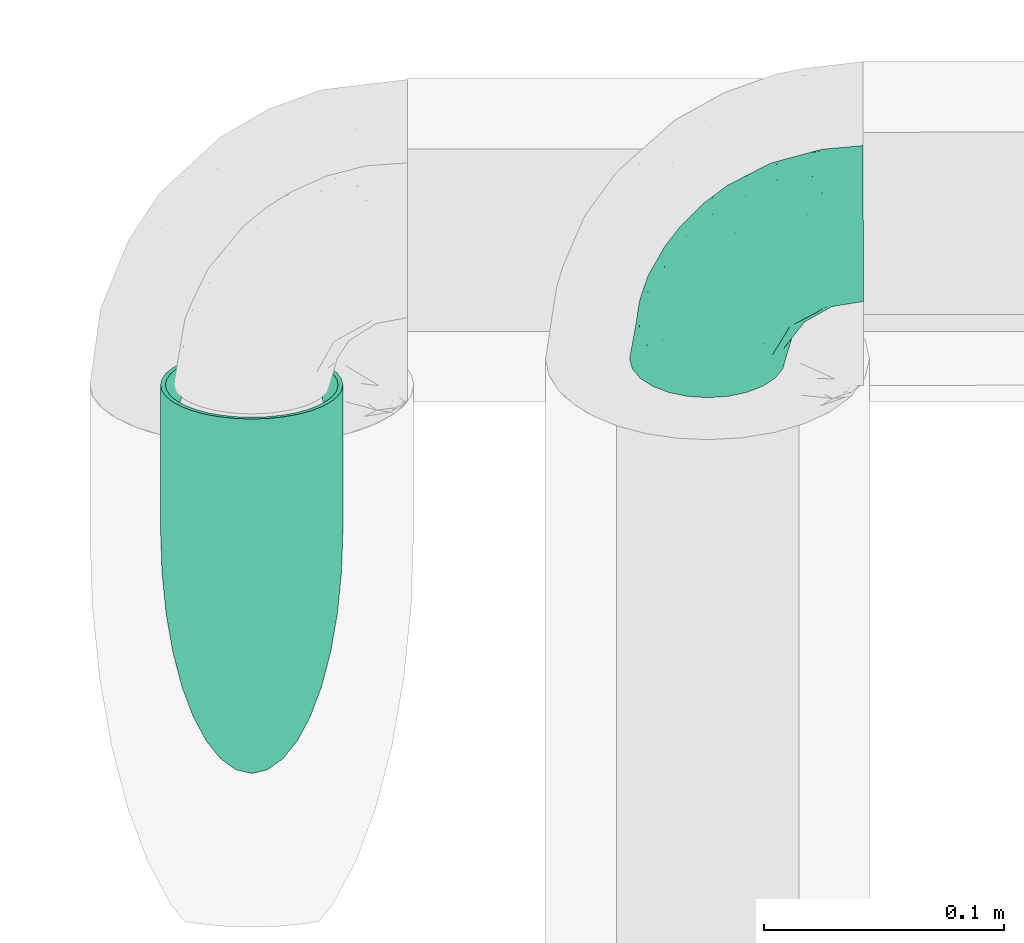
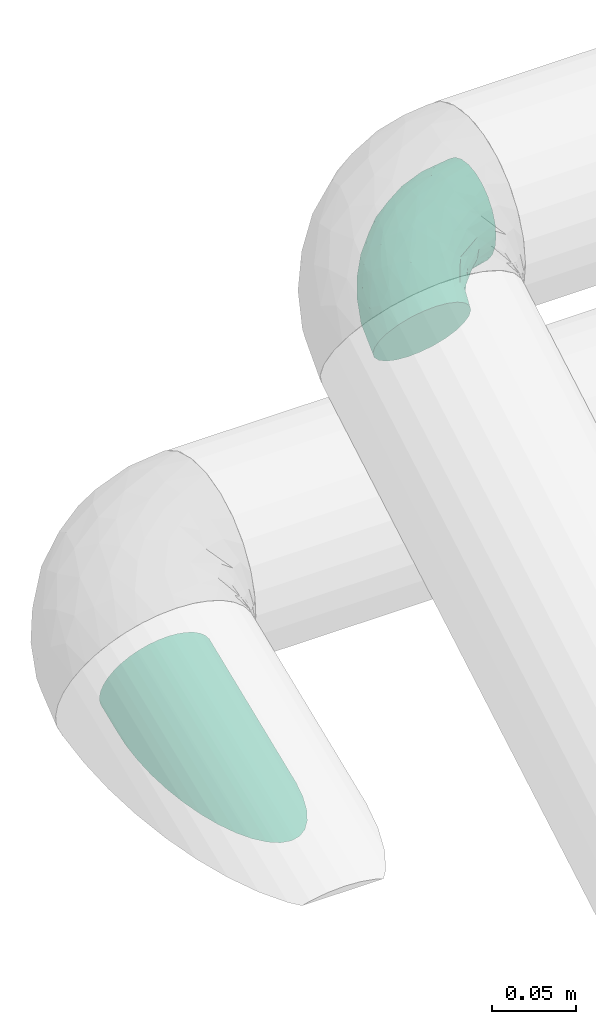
# One storey, part 118 of 156: 1 flow fitting, 1 flow segment.
"""IFC2X3 building model written with IfcOpenShell, lengths in millimetres."""

from ifc_helpers import new_model, entity, si_unit, converted_unit, derived_unit, direction, frame, origin_with_axes, place, context, subcontext, project, spatial, open_shell, faceted_brep, surface_model, source, transform, mapped, type_object, element, save


model = new_model("IFC2X3")

# Units and contexts
model_context = context("Model", 3, precision=0.01, world=frame((0.0, 4.29681676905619e-09, 0.0)), true_north=direction((4.01073788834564e-13, 1.0)))
plan_context = context("Plan", 3, precision=0.01, world=frame((0.0, 4.29681676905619e-09, 0.0)), true_north=direction((4.01073788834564e-13, 1.0)))
body_context = subcontext(model_context, "Body", "Model", "MODEL_VIEW")
ifc_project = project(units=[converted_unit("PLANEANGLEUNIT", "DEGREE", entity("IfcPositiveLengthMeasure", 0.0174532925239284), si_unit("PLANEANGLEUNIT", "RADIAN"), dimensions=[0, 0, 0, 0, 0, 0, 0]), si_unit("AREAUNIT", "SQUARE_METRE"), si_unit("LENGTHUNIT", "METRE", prefix="MILLI"), si_unit("MASSUNIT", "GRAM", prefix="KILO"), si_unit("POWERUNIT", "WATT"), si_unit("PRESSUREUNIT", "PASCAL", prefix="KILO"), si_unit("FORCEUNIT", "NEWTON", prefix="KILO"), si_unit("ELECTRICVOLTAGEUNIT", "VOLT"), si_unit("ELECTRICCURRENTUNIT", "AMPERE"), si_unit("THERMODYNAMICTEMPERATUREUNIT", "DEGREE_CELSIUS"), si_unit("TIMEUNIT", "SECOND"), si_unit("VOLUMEUNIT", "CUBIC_METRE"), derived_unit("LINEARVELOCITYUNIT", [(si_unit("LENGTHUNIT", "METRE"), 1), (si_unit("TIMEUNIT", "SECOND"), -1)]), derived_unit("VOLUMETRICFLOWRATEUNIT", [(si_unit("VOLUMEUNIT", "CUBIC_METRE"), 1), (si_unit("TIMEUNIT", "SECOND"), -1)]), derived_unit("THERMALTRANSMITTANCEUNIT", [(si_unit("POWERUNIT", "WATT"), 1), (si_unit("THERMODYNAMICTEMPERATUREUNIT", "KELVIN"), -1), (si_unit("AREAUNIT", "SQUARE_METRE"), -1)]), derived_unit("SOUNDPRESSUREUNIT", [(si_unit("PRESSUREUNIT", "PASCAL"), 1)])], contexts=[model_context, plan_context])

# Site, building, storey
site_placement = place(None, frame((0.0, -4.29681676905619e-09, 0.0), z_axis=(0.0, 0.0, 1.0), x_axis=(1.0, 0.0, 0.0)))
site = spatial("IfcSite", under=ifc_project, at=site_placement, CompositionType="ELEMENT")
building_placement = place(site_placement, frame((0.0, 4.29681676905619e-09, 0.0), z_axis=(0.0, 0.0, 1.0), x_axis=(1.0, 0.0, 0.0)))
building = spatial("IfcBuilding", under=site, at=building_placement, Name="mc-building", CompositionType="ELEMENT")
storey_placement = place(building_placement, frame((0.0, 0.0, 205200.0), z_axis=(0.0, 0.0, 1.0), x_axis=(1.0, 0.0, 0.0)))
storey = spatial("IfcBuildingStorey", under=building, at=storey_placement, Name="Nivå D + 1,2 m", CompositionType="ELEMENT", Elevation=205200.0)

# Flow fitting
pipe_fitting_type = type_object("IfcPipeFittingType", Name="magi_pipe_elbow_short_001", PredefinedType="BEND")
shared_shape = source(origin_with_axes(), body_context, "Body", "SurfaceModel", [
    surface_model("IfcShellBasedSurfaceModel", [(-64.87655, 16.25, -28.14582), (-64.87655, 8.41162, -31.39259), (-64.87655, 0.0, -32.5), (-64.87655, -22.98097, -22.98097), (-64.87655, 31.39259, -8.41162), (-64.87655, 28.14582, -16.25), (-64.87655, 22.98097, -22.98097), (-64.87655, -32.5, 0.0), (-64.87655, -31.39259, 8.41162), (-64.87655, -16.25, -28.14582), (-64.87655, -8.41162, -31.39259), (-64.87655, -31.39259, -8.41162), (-64.87655, -28.14582, -16.25), (-64.87655, -22.98097, 22.98097), (-64.87655, 31.39259, 8.41162), (-64.87655, 28.14582, 16.25), (-64.87655, 16.25, 28.14582), (-64.87655, 22.98097, 22.98097), (-64.87655, 0.0, 32.5), (-64.87655, 8.41162, 31.39259), (-64.87655, -28.14582, 16.25), (-64.87655, -8.41162, 31.39259), (-64.87655, -16.25, 28.14582), (-64.87655, 32.5, 0.0), (0.12333, 64.87643, -32.5), (-8.28827, 64.89242, -31.39259), (-16.12664, 64.90733, -28.14582), (-22.8576, 64.92012, -22.98097), (-28.02244, 64.92994, -16.25), (-31.2692, 64.93611, -8.41162), (31.51587, 64.81675, -8.41162), (8.53494, 64.86044, -31.39259), (23.10426, 64.83274, -22.98097), (16.3733, 64.84554, -28.14582), (28.26911, 64.82292, -16.25), (31.51587, 64.81675, 8.41162), (32.62327, 64.81465, 0.0), (-31.2692, 64.93611, 8.41162), (-16.12664, 64.90733, 28.14582), (-28.02244, 64.92994, 16.25), (23.10426, 64.83274, 22.98097), (-22.8576, 64.92012, 22.98097), (0.12333, 64.87643, 32.5), (-8.28827, 64.89242, 31.39259), (28.26911, 64.82292, 16.25), (16.3733, 64.84554, 28.14582), (8.53494, 64.86044, 31.39259), (-32.37661, 64.93821, 0.0), (-43.78638, -28.50327, 10.21702), (-47.54494, -25.24623, 18.24519), (-34.78265, -27.73946, 0.0), (-48.89189, -29.97139, 0.0), (-8.252, -11.27241, 12.5149), (-2.22182, -8.75643, 6.82094), (1.95014, -1.95385, 13.42601), (-49.54732, -4.3057, 31.94496), (-45.40277, 4.98135, 32.44435), (11.17225, 7.86308, 12.20499), (19.88469, 26.26298, 16.16719), (7.66354, 11.6801, 20.73257), (-32.27113, -0.30113, 31.50287), (-47.41793, -12.26025, 29.2297), (-25.1179, -7.66846, 27.16987), (-41.55841, -18.5628, 24.14452), (-29.03155, -24.9257, 6.67812), (-21.20507, -20.83109, 0.0), (-11.69465, -7.64132, 20.73257), (-5.7483, 5.75924, 26.5815), (-31.67073, 51.8108, 14.12355), (-27.05283, 50.53453, 21.34896), (-12.02558, 55.97712, 30.44087), (-4.36274, 48.51047, 32.41994), (-49.98018, 12.74758, 30.70005), (-8.41945, 21.6855, 31.91115), (-16.06445, 5.95653, 30.35637), (-3.23652, 17.50813, 29.86736), (-56.12676, 19.68077, 26.47942), (-11.23295, 31.90454, 32.44032), (-23.998, 24.04366, 31.70736), (-19.2949, 14.17345, 32.3349), (-51.30994, 34.596, 7.1377), (-51.7668, 31.76387, 14.12137), (-40.25386, 40.33046, 12.14588), (-50.69243, 27.09128, 21.32593), (18.64177, 41.52305, 24.14452), (-33.59503, 43.05314, 18.40332), (12.35037, 47.39454, 29.2297), (25.33657, 47.49686, 18.24519), (28.58646, 43.73211, 10.21702), (-7.62748, -13.92271, 0.0), (-15.70975, -17.90999, 8.41339), (4.39988, 49.53904, 31.94496), (-35.61928, 13.90676, 31.91801), (-31.81109, 7.95836, 32.48663), (20.87136, 21.16543, 0.0), (24.98085, 28.98411, 6.67812), (17.93982, 15.67568, 8.41339), (30.06429, 48.83483, 0.0), (-34.4771, 22.02359, 30.05845), (-26.30073, -19.83472, 16.16719), (-23.47981, 41.93903, 27.31339), (-19.75225, 54.41792, 26.61525), (-34.10882, 52.37617, 6.97272), (-40.64738, 42.58639, 5.71488), (15.02949, 26.04051, 22.02602), (7.7162, 25.10327, 27.16987), (-36.75134, 48.71434, 0.0), (-30.01745, 34.26802, 26.7011), (-44.66582, 22.05232, 27.36407), (-0.41267, 0.41346, 19.15876), (-18.47549, 33.59752, 31.23714), (-25.82127, 31.41584, 29.56775), (-13.96683, 43.97117, 30.94964), (-34.18414, 36.24999, 23.01645), (-41.63521, 34.91538, 18.11446), (0.36248, 32.2705, 31.50287), (-25.94206, -14.23596, 22.67292), (8.91945, 2.28416, 6.48766), (27.80553, 34.72985, 0.0), (13.93719, 7.601, 0.0), (-48.64439, 36.84388, 0.0), (3.15485, -3.16085, 0.0), (-50.48302, 27.14885, -21.34896), (-26.06903, -14.97996, -22.02602), (-25.1179, -7.66846, -27.16987), (-11.69465, -7.64132, -20.73257), (-48.50209, 4.45495, -32.41994), (0.36248, 32.2705, -31.50287), (12.35037, 47.39454, -29.2297), (7.7162, 25.10327, -27.16987), (-55.95415, 12.13197, -30.44087), (-19.57403, 56.16407, -26.47943), (-26.99487, 50.74384, -21.32593), (-52.31123, 34.20833, -6.97272), (-0.41267, 0.41346, -19.15876), (1.95014, -1.95385, -13.42601), (-8.252, -11.27241, -12.5149), (-40.25386, 40.33046, -12.14587), (-51.7505, 31.76917, -14.12355), (24.98085, 28.98411, -6.67812), (19.88469, 26.26298, -16.16719), (28.58646, 43.73211, -10.21702), (-31.36669, 25.88095, -29.56775), (-33.56234, 18.53933, -31.23714), (-41.89432, 23.5595, -27.31339), (7.66354, 11.6801, -20.73257), (-5.7483, 5.75924, -26.5815), (-21.66945, 8.46066, -31.91115), (-5.92598, 16.07574, -30.35637), (-17.50194, 3.26979, -29.86736), (-54.38027, 19.85566, -26.61525), (-43.78638, -28.50327, -10.21702), (-36.18494, 34.25299, -23.01646), (-47.54494, -25.24623, -18.24519), (-29.03155, -24.9257, -6.67812), (-26.30073, -19.83472, -16.16719), (-15.70975, -17.90999, -8.41339), (-42.9892, 33.67681, -18.40332), (-47.41793, -12.26025, -29.2297), (-49.54732, -4.3057, -31.94496), (-43.94454, 14.05039, -30.94965), (-31.88313, 11.29358, -32.44032), (-12.65254, 50.00432, -30.70005), (-4.89503, 45.41215, -32.44435), (-42.50903, 40.72826, -5.71488), (-21.958, 34.5189, -30.05846), (-13.83902, 35.64566, -31.91801), (-34.4984, 51.37562, -7.1377), (-31.6654, 51.82709, -14.12137), (4.39988, 49.53904, -31.94496), (-2.22182, -8.75643, -6.82094), (25.33657, 47.49686, -18.24519), (-41.55841, -18.5628, -24.14452), (-23.998, 24.04366, -31.70736), (-14.13674, 19.32181, -32.3349), (18.64177, 41.52305, -24.14452), (17.93982, 15.67568, -8.41339), (-34.2109, 30.08255, -26.7011), (-21.96737, 44.70766, -27.36407), (-7.89788, 31.82616, -32.48663), (-34.83616, 41.70151, -18.11446), (-32.27113, -0.30113, -31.50287), (14.28525, 25.91495, -22.67292), (11.47605, 8.85774, -13.03444), (8.95083, 2.55671, -7.19496)], [open_shell([[[0, 1, 2]], [[0, 2, 3]], [[4, 5, 6]], [[6, 0, 7]], [[6, 7, 8]], [[9, 3, 10]], [[3, 2, 10]], [[11, 7, 12]], [[3, 12, 7]], [[3, 7, 0]], [[8, 4, 6]], [[13, 14, 4]], [[15, 14, 16]], [[13, 16, 14]], [[17, 15, 16]], [[16, 18, 19]], [[20, 13, 8]], [[8, 13, 4]], [[21, 18, 22]], [[16, 13, 22]], [[16, 22, 18]], [[23, 4, 14]], [[24, 25, 26]], [[24, 26, 27]], [[27, 28, 29]], [[27, 29, 24]], [[24, 29, 30]], [[31, 32, 33]], [[31, 24, 32]], [[32, 30, 34]], [[24, 30, 32]], [[30, 35, 36]], [[30, 29, 35]], [[35, 29, 37]], [[38, 37, 39]], [[40, 37, 38]], [[38, 39, 41]], [[42, 38, 43]], [[35, 40, 44]], [[35, 37, 40]], [[45, 42, 46]], [[42, 45, 40]], [[38, 42, 40]], [[37, 29, 47]], [[48, 49, 20]], [[50, 48, 51]], [[52, 53, 54]], [[8, 48, 20]], [[8, 51, 48]], [[18, 55, 56]], [[20, 49, 13]], [[57, 58, 59]], [[60, 61, 62]], [[63, 22, 13]], [[63, 61, 22]], [[64, 50, 65]], [[62, 66, 67]], [[39, 68, 69]], [[43, 70, 71]], [[19, 72, 16]], [[73, 74, 75]], [[16, 76, 17]], [[21, 55, 18]], [[77, 78, 79]], [[80, 81, 82]], [[15, 83, 81]], [[84, 40, 45]], [[23, 14, 80]], [[14, 15, 81]], [[68, 85, 69]], [[83, 15, 17]], [[18, 56, 19]], [[45, 86, 84]], [[17, 76, 83]], [[87, 58, 88]], [[39, 37, 68]], [[89, 90, 65]], [[42, 91, 46]], [[65, 90, 64]], [[42, 43, 71]], [[92, 93, 79]], [[88, 35, 44]], [[44, 40, 87]], [[87, 88, 44]], [[94, 95, 96]], [[88, 97, 35]], [[98, 72, 92]], [[49, 99, 63]], [[69, 100, 101]], [[82, 102, 103]], [[104, 105, 59]], [[106, 102, 47]], [[98, 107, 108]], [[102, 82, 68]], [[86, 45, 46]], [[69, 41, 39]], [[109, 54, 57]], [[110, 100, 111]], [[22, 61, 21]], [[101, 38, 41]], [[70, 43, 38]], [[112, 77, 71]], [[84, 86, 105]], [[96, 95, 58]], [[100, 69, 113]], [[72, 19, 56]], [[108, 113, 83]], [[81, 114, 82]], [[112, 110, 77]], [[91, 71, 115]], [[62, 61, 63]], [[55, 61, 60]], [[116, 99, 66]], [[74, 62, 67]], [[91, 86, 46]], [[105, 86, 115]], [[75, 105, 115]], [[109, 67, 66]], [[59, 105, 67]], [[48, 64, 99]], [[99, 49, 48]], [[63, 13, 49]], [[40, 84, 87]], [[58, 87, 84]], [[92, 72, 56]], [[76, 72, 108]], [[102, 68, 37]], [[82, 114, 85]], [[98, 111, 107]], [[112, 70, 101]], [[114, 83, 113]], [[82, 103, 80]], [[92, 79, 78]], [[115, 71, 77]], [[74, 79, 60]], [[77, 79, 73]], [[57, 54, 117]], [[104, 59, 58]], [[116, 66, 62]], [[52, 99, 90]], [[71, 91, 42]], [[86, 91, 115]], [[61, 55, 21]], [[56, 55, 60]], [[8, 7, 51]], [[97, 88, 118]], [[97, 36, 35]], [[53, 90, 89]], [[90, 53, 52]], [[94, 96, 119]], [[88, 95, 118]], [[117, 54, 53]], [[92, 56, 93]], [[98, 92, 78]], [[111, 98, 78]], [[72, 98, 108]], [[110, 111, 78]], [[107, 111, 100]], [[47, 102, 37]], [[102, 106, 103]], [[106, 120, 103]], [[103, 120, 80]], [[23, 80, 120]], [[14, 81, 80]], [[56, 60, 93]], [[60, 79, 93]], [[117, 121, 119]], [[121, 117, 53]], [[53, 89, 121]], [[119, 96, 117]], [[117, 96, 57]], [[77, 110, 78]], [[100, 110, 112]], [[83, 114, 81]], [[85, 114, 113]], [[69, 85, 113]], [[82, 85, 68]], [[109, 52, 54]], [[99, 52, 66]], [[69, 101, 41]], [[112, 101, 100]], [[100, 113, 107]], [[108, 107, 113]], [[62, 74, 60]], [[75, 74, 67]], [[105, 75, 67]], [[73, 75, 115]], [[77, 73, 115]], [[74, 73, 79]], [[99, 64, 90]], [[50, 64, 48]], [[118, 95, 94]], [[58, 95, 88]], [[58, 57, 96]], [[109, 57, 59]], [[72, 76, 16]], [[83, 76, 108]], [[101, 70, 38]], [[71, 70, 112]], [[58, 84, 104]], [[105, 104, 84]], [[67, 109, 59]], [[52, 109, 66]], [[62, 63, 116]], [[99, 116, 63]], [[5, 122, 6]], [[123, 124, 125]], [[2, 1, 126]], [[127, 128, 129]], [[1, 0, 130]], [[27, 131, 132]], [[120, 133, 23]], [[134, 135, 136]], [[133, 137, 138]], [[139, 140, 141]], [[142, 143, 144]], [[145, 146, 129]], [[147, 148, 149]], [[150, 0, 6]], [[12, 151, 11]], [[33, 128, 31]], [[151, 51, 11]], [[144, 122, 152]], [[151, 12, 153]], [[5, 4, 138]], [[154, 155, 156]], [[138, 157, 122]], [[158, 9, 10]], [[30, 36, 97]], [[159, 10, 2]], [[155, 151, 153]], [[160, 161, 126]], [[162, 25, 163]], [[164, 137, 133]], [[165, 162, 166]], [[47, 29, 167]], [[122, 144, 150]], [[168, 29, 28]], [[24, 169, 163]], [[89, 156, 170]], [[27, 26, 131]], [[162, 26, 25]], [[141, 171, 34]], [[24, 31, 169]], [[138, 122, 5]], [[172, 3, 9]], [[27, 132, 28]], [[161, 173, 174]], [[33, 175, 128]], [[158, 172, 9]], [[167, 168, 137]], [[24, 163, 25]], [[118, 94, 139]], [[34, 171, 32]], [[175, 33, 32]], [[141, 30, 97]], [[172, 158, 124]], [[141, 97, 118]], [[65, 154, 156]], [[119, 176, 94]], [[34, 30, 141]], [[165, 177, 178]], [[1, 130, 126]], [[171, 140, 175]], [[132, 168, 28]], [[166, 179, 174]], [[12, 3, 153]], [[178, 152, 132]], [[168, 180, 137]], [[160, 143, 161]], [[159, 126, 181]], [[159, 158, 10]], [[124, 158, 181]], [[149, 124, 181]], [[134, 146, 145]], [[129, 128, 175]], [[169, 128, 127]], [[182, 140, 145]], [[148, 129, 146]], [[136, 155, 125]], [[125, 124, 146]], [[3, 172, 153]], [[155, 153, 172]], [[140, 171, 141]], [[175, 32, 171]], [[166, 162, 163]], [[131, 162, 178]], [[133, 138, 4]], [[137, 180, 157]], [[165, 142, 177]], [[160, 130, 150]], [[180, 132, 152]], [[137, 164, 167]], [[166, 174, 173]], [[181, 126, 161]], [[148, 174, 127]], [[161, 174, 147]], [[136, 135, 170]], [[123, 125, 155]], [[182, 145, 129]], [[183, 140, 176]], [[126, 159, 2]], [[158, 159, 181]], [[128, 169, 31]], [[163, 169, 127]], [[51, 151, 50]], [[51, 7, 11]], [[65, 156, 89]], [[151, 154, 50]], [[156, 136, 170]], [[94, 176, 139]], [[135, 184, 170]], [[176, 184, 183]], [[166, 163, 179]], [[165, 166, 173]], [[142, 165, 173]], [[162, 165, 178]], [[143, 142, 173]], [[177, 142, 144]], [[23, 133, 4]], [[133, 120, 164]], [[120, 106, 164]], [[164, 106, 167]], [[47, 167, 106]], [[29, 168, 167]], [[163, 127, 179]], [[127, 174, 179]], [[135, 183, 184]], [[184, 121, 170]], [[176, 119, 184]], [[134, 183, 135]], [[121, 184, 119]], [[121, 89, 170]], [[140, 183, 145]], [[161, 143, 173]], [[144, 143, 160]], [[132, 180, 168]], [[157, 180, 152]], [[122, 157, 152]], [[137, 157, 138]], [[155, 136, 156]], [[134, 136, 125]], [[122, 150, 6]], [[160, 150, 144]], [[144, 152, 177]], [[178, 177, 152]], [[129, 148, 127]], [[149, 148, 146]], [[124, 149, 146]], [[147, 149, 181]], [[161, 147, 181]], [[148, 147, 174]], [[50, 154, 65]], [[155, 154, 151]], [[140, 139, 176]], [[118, 139, 141]], [[162, 131, 26]], [[132, 131, 178]], [[150, 130, 0]], [[126, 130, 160]], [[155, 172, 123]], [[124, 123, 172]], [[146, 134, 125]], [[183, 134, 145]], [[129, 175, 182]], [[140, 182, 175]]])]),
])
flow_fitting_placement = place(storey_placement, frame((326407.42979, 460519.07185, 4232.60000000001), z_axis=(0.00109799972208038, -0.499999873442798, 0.866024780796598), x_axis=(-0.999997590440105, -0.00219524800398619, 4.31110314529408e-07)))
element("IfcFlowFitting", 1, at=flow_fitting_placement, inside=storey, type_object=pipe_fitting_type, Name="magi_pipe_elbow_short_001", context=body_context, shape_type="MappedRepresentation", body=[
    mapped(shared_shape, transform((0.0, 0.0, 0.0), scale=1.0)),
])

# Flow segment
pipe_segment_type = type_object("IfcPipeSegmentType", Name="Stålrør normaltykke", PredefinedType="RIGIDSEGMENT")
flow_segment_placement = place(storey_placement, frame((326217.42979, 460251.23866, 3943.34448), z_axis=(0.0, -0.37460689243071, 0.927183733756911), x_axis=(0.0, 0.927183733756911, 0.37460689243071)))
element("IfcFlowSegment", 2, at=flow_segment_placement, inside=storey, type_object=pipe_segment_type, Name="Stålrør normaltykke", context=body_context, shape_type="Brep", body=[
    faceted_brep([(166.712510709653, 35.4530791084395, -6.25133439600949), (151.239929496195, 36.0, 0.0), (216.5, 36.0, 0.0), (216.5, 35.4530791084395, -6.25133439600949), (181.714965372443, 33.8289343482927, -12.3127251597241), (216.5, 33.8289343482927, -12.3127251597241), (195.791451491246, 31.1769145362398, -18.0), (216.5, 31.1769145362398, -18.0), (208.514262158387, 27.5775999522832, -23.1403539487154), (216.5, 27.5775999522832, -23.1403539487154), (216.5, 24.3511494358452, -26.3668044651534), (208.514262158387, -27.5775999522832, -23.1403539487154), (216.5, -24.3511494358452, -26.3668044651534), (216.5, -27.5775999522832, -23.1403539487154), (195.791451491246, -31.1769145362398, -18.0), (216.5, -31.1769145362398, -18.0), (181.714965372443, -33.8289343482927, -12.3127251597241), (216.5, -33.8289343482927, -12.3127251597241), (166.712510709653, -35.4530791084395, -6.25133439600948), (216.5, -35.4530791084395, -6.25133439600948), (151.239929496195, -36.0, 4.40872847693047e-15), (216.5, -36.0, 4.40872847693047e-15), (135.767348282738, -35.4530791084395, 6.25133439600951), (216.5, -35.4530791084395, 6.25133439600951), (120.764893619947, -33.8289343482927, 12.3127251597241), (216.5, -33.8289343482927, 12.3127251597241), (106.688407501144, -31.1769145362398, 18.0), (216.5, -31.1769145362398, 18.0), (93.9655968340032, -27.5775999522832, 23.1403539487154), (216.5, -27.5775999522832, 23.1403539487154), (82.983037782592, -23.1403539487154, 27.5775999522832), (216.5, -23.1403539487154, 27.5775999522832), (74.0744298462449, -18.0, 31.1769145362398), (216.5, -18.0, 31.1769145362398), (67.5104565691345, -12.3127251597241, 33.8289343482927), (216.5, -12.3127251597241, 33.8289343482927), (63.4905609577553, -6.25133439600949, 35.4530791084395), (216.5, -6.25133439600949, 35.4530791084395), (62.1368855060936, 2.20436423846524e-15, 36.0), (216.5, 2.20436423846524e-15, 36.0), (63.4905609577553, 6.2513343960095, 35.4530791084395), (216.5, 6.2513343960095, 35.4530791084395), (67.5104565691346, 12.3127251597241, 33.8289343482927), (216.5, 12.3127251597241, 33.8289343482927), (74.0744298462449, 18.0, 31.1769145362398), (216.5, 18.0, 31.1769145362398), (82.983037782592, 23.1403539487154, 27.5775999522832), (216.5, 23.1403539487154, 27.5775999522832), (93.9655968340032, 27.5775999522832, 23.1403539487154), (216.5, 27.5775999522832, 23.1403539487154), (106.688407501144, 31.1769145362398, 18.0), (216.5, 31.1769145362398, 18.0), (120.764893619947, 33.8289343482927, 12.3127251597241), (216.5, 33.8289343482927, 12.3127251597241), (135.767348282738, 35.4530791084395, 6.25133439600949), (216.5, 35.4530791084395, 6.25133439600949), (151.239929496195, 38.0, 0.0), (167.572098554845, 37.4226946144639, -6.59863075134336), (216.5, 37.4226946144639, -6.59863075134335), (216.5, 38.0, 0.0), (134.907760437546, 37.4226946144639, 6.59863075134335), (216.5, 37.4226946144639, 6.59863075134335), (119.071836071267, 35.7083195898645, 12.9967654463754), (216.5, 35.7083195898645, 12.9967654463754), (104.213322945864, 32.9089653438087, 19.0), (216.5, 32.9089653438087, 19.0), (90.7836894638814, 29.1096888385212, 24.4259291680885), (216.5, 29.1096888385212, 24.4259291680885), (79.1909882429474, 24.4259291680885, 29.1096888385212), (216.5, 24.4259291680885, 29.1096888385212), (69.7874576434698, 19.0, 32.9089653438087), (216.5, 19.0, 32.9089653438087), (62.8588191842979, 12.9967654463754, 35.7083195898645), (216.5, 12.9967654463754, 35.7083195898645), (58.6155960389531, 6.59863075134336, 37.4226946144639), (216.5, 6.59863075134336, 37.4226946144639), (57.1867163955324, 2.32682891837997e-15, 38.0), (216.5, 2.32682891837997e-15, 38.0), (58.6155960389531, -6.59863075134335, 37.4226946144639), (216.5, -6.59863075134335, 37.4226946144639), (62.8588191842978, -12.9967654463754, 35.7083195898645), (216.5, -12.9967654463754, 35.7083195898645), (69.7874576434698, -19.0, 32.9089653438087), (216.5, -19.0, 32.9089653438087), (79.1909882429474, -24.4259291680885, 29.1096888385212), (216.5, -24.4259291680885, 29.1096888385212), (90.7836894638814, -29.1096888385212, 24.4259291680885), (216.5, -29.1096888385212, 24.4259291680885), (104.213322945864, -32.9089653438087, 19.0), (216.5, -32.9089653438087, 19.0), (119.071836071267, -35.7083195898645, 12.9967654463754), (216.5, -35.7083195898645, 12.9967654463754), (134.907760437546, -37.4226946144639, 6.59863075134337), (216.5, -37.4226946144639, 6.59863075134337), (151.239929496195, -38.0, 4.65365783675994e-15), (216.5, -38.0, 4.65365783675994e-15), (167.572098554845, -37.4226946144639, -6.59863075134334), (216.5, -37.4226946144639, -6.59863075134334), (183.408022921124, -35.7083195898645, -12.9967654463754), (216.5, -35.7083195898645, -12.9967654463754), (198.266536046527, -32.9089653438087, -19.0), (216.5, -32.9089653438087, -19.0), (211.696169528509, -29.1096888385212, -24.4259291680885), (216.5, -29.1096888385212, -24.4259291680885), (216.5, -27.1688135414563, -26.3668044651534), (211.696169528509, 29.1096888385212, -24.4259291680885), (216.5, 27.1688135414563, -26.3668044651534), (216.5, 29.1096888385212, -24.4259291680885), (198.266536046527, 32.9089653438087, -19.0), (216.5, 32.9089653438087, -19.0), (183.408022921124, 35.7083195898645, -12.9967654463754), (216.5, 35.7083195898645, -12.9967654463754)], [[[0, 1, 2, 3]], [[4, 0, 3, 5]], [[6, 4, 5, 7]], [[8, 6, 7, 9]], [[10, 8, 9]], [[11, 12, 13]], [[14, 11, 13, 15]], [[16, 14, 15, 17]], [[18, 16, 17, 19]], [[20, 18, 19, 21]], [[22, 20, 21, 23]], [[24, 22, 23, 25]], [[26, 24, 25, 27]], [[28, 26, 27, 29]], [[30, 28, 29, 31]], [[32, 30, 31, 33]], [[34, 32, 33, 35]], [[36, 34, 35, 37]], [[38, 36, 37, 39]], [[40, 38, 39, 41]], [[42, 40, 41, 43]], [[44, 42, 43, 45]], [[46, 44, 45, 47]], [[48, 46, 47, 49]], [[50, 48, 49, 51]], [[52, 50, 51, 53]], [[54, 52, 53, 55]], [[1, 54, 55, 2]], [[56, 57, 58, 59]], [[60, 56, 59, 61]], [[62, 60, 61, 63]], [[64, 62, 63, 65]], [[66, 64, 65, 67]], [[68, 66, 67, 69]], [[70, 68, 69, 71]], [[72, 70, 71, 73]], [[74, 72, 73, 75]], [[76, 74, 75, 77]], [[78, 76, 77, 79]], [[80, 78, 79, 81]], [[82, 80, 81, 83]], [[84, 82, 83, 85]], [[86, 84, 85, 87]], [[88, 86, 87, 89]], [[90, 88, 89, 91]], [[92, 90, 91, 93]], [[94, 92, 93, 95]], [[96, 94, 95, 97]], [[98, 96, 97, 99]], [[100, 98, 99, 101]], [[102, 100, 101, 103]], [[104, 102, 103]], [[105, 106, 107]], [[108, 105, 107, 109]], [[110, 108, 109, 111]], [[57, 110, 111, 58]], [[106, 10, 9, 7, 5, 3, 2, 55, 53, 51, 49, 47, 45, 43, 41, 39, 37, 35, 33, 31, 29, 27, 25, 23, 21, 19, 17, 15, 13, 12, 104, 103, 101, 99, 97, 95, 93, 91, 89, 87, 85, 83, 81, 79, 77, 75, 73, 71, 69, 67, 65, 63, 61, 59, 58, 111, 109, 107]], [[4, 6, 8, 10, 106, 105, 108, 110, 57, 56, 60, 62, 64, 66, 68, 70, 72, 74, 76, 78, 80, 82, 84, 86, 88, 90, 92, 94, 96, 98, 100, 102, 104, 12, 11, 14, 16, 18, 20, 22, 24, 26, 28, 30, 32, 34, 36, 38, 40, 42, 44, 46, 48, 50, 52, 54, 1, 0]]], orient=[[False], [False], [False], [False], [False], [False], [False], [False], [False], [False], [False], [False], [False], [False], [False], [False], [False], [False], [False], [False], [False], [False], [False], [False], [False], [False], [False], [False], [False], [False], [False], [False], [False], [False], [False], [False], [False], [False], [False], [False], [False], [False], [False], [False], [False], [False], [False], [False], [False], [False], [False], [False], [False], [False], [False], [False], [False], [False]]),
])

save(model, "model.ifc")
